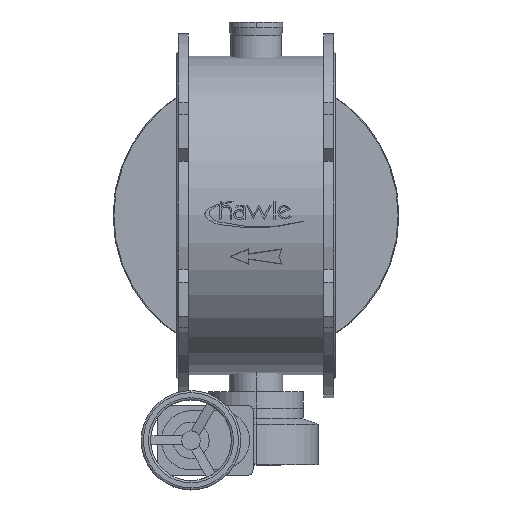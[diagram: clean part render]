
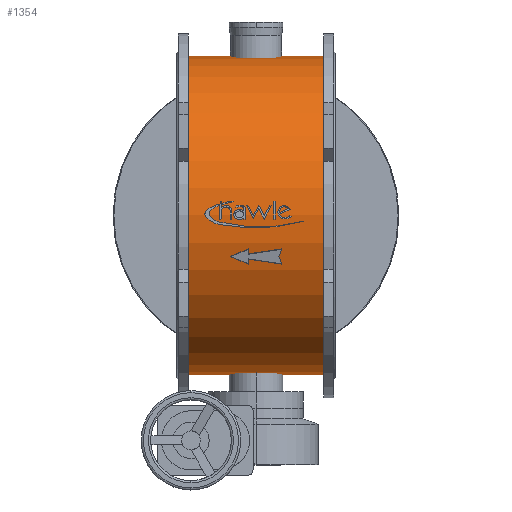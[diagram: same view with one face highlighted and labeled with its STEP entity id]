
A CAD part, top view. The second image highlights one B-rep face of the part: STEP entity #1354.
In plain terms, the highlighted cylindrical face has radius 593 mm (diameter 1186 mm), a partial arc.
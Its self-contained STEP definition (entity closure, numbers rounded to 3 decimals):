
#1354=ADVANCED_FACE('',(#2827),#2828,.T.);
#2827=FACE_OUTER_BOUND('',#4875,.T.);
#2828=CYLINDRICAL_SURFACE('',#4876,593.0);
#4875=EDGE_LOOP('',(#7371,#7372,#7373,#7374));
#4876=AXIS2_PLACEMENT_3D('',#7375,#7376,#7377);
#7371=ORIENTED_EDGE('',*,*,#11337,.T.);
#7372=ORIENTED_EDGE('',*,*,#11338,.T.);
#7373=ORIENTED_EDGE('',*,*,#11339,.T.);
#7374=ORIENTED_EDGE('',*,*,#10896,.T.);
#7375=CARTESIAN_POINT('',(-547.5,0.,0.0));
#7376=DIRECTION('',(1.0,0.,0.0));
#7377=DIRECTION('',(0.,-1.0,0.0));
#10896=EDGE_CURVE('',#12883,#12882,#12885,.T.);
#11337=EDGE_CURVE('',#12882,#13592,#13593,.T.);
#11338=EDGE_CURVE('',#13592,#13594,#13595,.T.);
#11339=EDGE_CURVE('',#13594,#12883,#13596,.T.);
#12882=VERTEX_POINT('',#15531);
#12883=VERTEX_POINT('',#15532);
#12885=CIRCLE('',#15534,593.0);
#13592=VERTEX_POINT('',#16447);
#13593=LINE('',#16448,#16449);
#13594=VERTEX_POINT('',#16450);
#13595=CIRCLE('',#16451,593.0);
#13596=LINE('',#16452,#16453);
#15531=CARTESIAN_POINT('',(-547.5,-593.0,0.0));
#15532=CARTESIAN_POINT('',(-547.5,593.0,0.));
#15534=AXIS2_PLACEMENT_3D('',#18625,#18626,#18627);
#16447=CARTESIAN_POINT('',(-42.5,-593.0,0.0));
#16448=CARTESIAN_POINT('',(-547.5,-593.0,0.));
#16449=VECTOR('',#19209,1.0);
#16450=CARTESIAN_POINT('',(-42.5,593.0,0.));
#16451=AXIS2_PLACEMENT_3D('',#19210,#19211,#19212);
#16452=CARTESIAN_POINT('',(-547.5,593.0,0.));
#16453=VECTOR('',#19213,1.0);
#18625=CARTESIAN_POINT('',(-547.5,0.,0.0));
#18626=DIRECTION('',(1.0,0.,0.0));
#18627=DIRECTION('',(0.,-1.0,0.0));
#19209=DIRECTION('',(1.0,0.,0.0));
#19210=CARTESIAN_POINT('',(-42.5,0.,0.0));
#19211=DIRECTION('',(-1.0,0.,0.0));
#19212=DIRECTION('',(0.,-1.0,0.0));
#19213=DIRECTION('',(-1.0,0.,-0.0));
